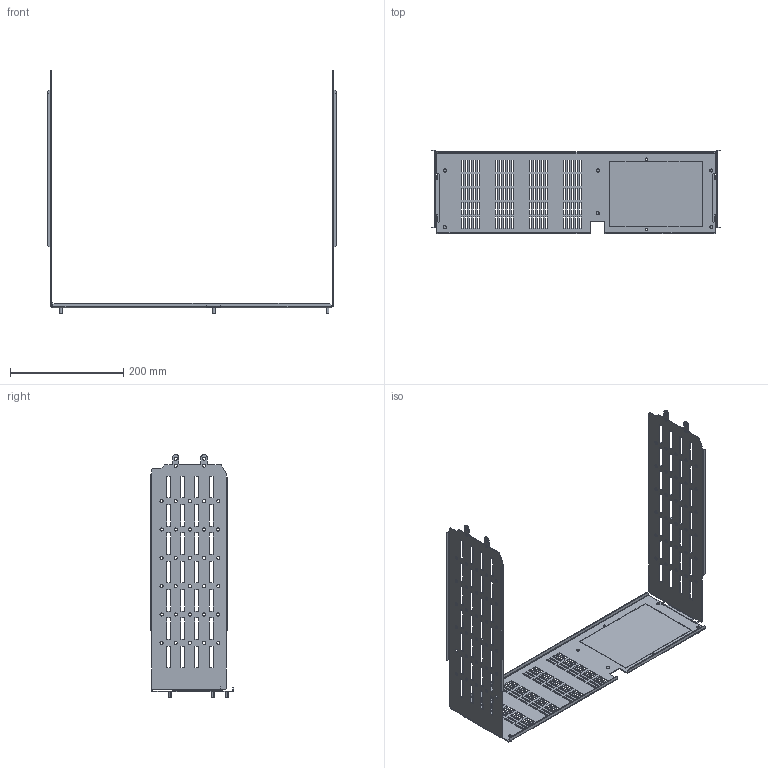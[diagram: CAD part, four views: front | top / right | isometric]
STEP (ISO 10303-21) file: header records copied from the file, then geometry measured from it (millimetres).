
FILE_DESCRIPTION(('CAx-IF Rec.Pracs.---Model Styling and Organization---1.2---2011-12-15','CAx-IF Rec.Pracs.---Geometric and Assembly Validation Properties---4.1---2014-06-16','CAx-IF Rec.Pracs.---PMI Polyline Presentation---2.0---2013-05-24'),'2;1');
FILE_NAME('R5M2WPV3M.stp','2021-05-05T13:01:41+03:00',(''),(''),'STEP Interface 4.4 by CT CoreTechnologie','3D_Evolution4.4 by CT CoreTechnologie','');
FILE_SCHEMA(('AUTOMOTIVE_DESIGN { 1 0 10303 214 1 1 1 1 }'));
Length unit declared in the file: millimetre
Products named in the file (5): R5M2WPV3M; RB.1285.00.00.0_-06; RB.1285.00.00.0_-07; M5x8-DIN7500C_stright; RB.1600.00.00.0_-01
Assembly tree (9 placements, depth 2):
  R5M2WPV3M
    RB.1285.00.00.0_-06
    RB.1285.00.00.0_-07
    M5x8-DIN7500C_stright  x6
    RB.1600.00.00.0_-01
Bounding box: 510 x 147.5 x 429.1 mm (x, y, z)
Surface area: 354114.9 mm2 (no closed solid volume)
Topology: 0 solids, 10 shells, 1039 faces, 3085 edges, 2058 vertices
Faces by surface type: plane 833, cylinder 206
Entity records: 35321 total; most frequent: CARTESIAN_POINT 6122, ORIENTED_EDGE 6110, DIRECTION 5507, EDGE_CURVE 3055, VECTOR 2661, LINE 2661, VERTEX_POINT 2038, EDGE_LOOP 1511
